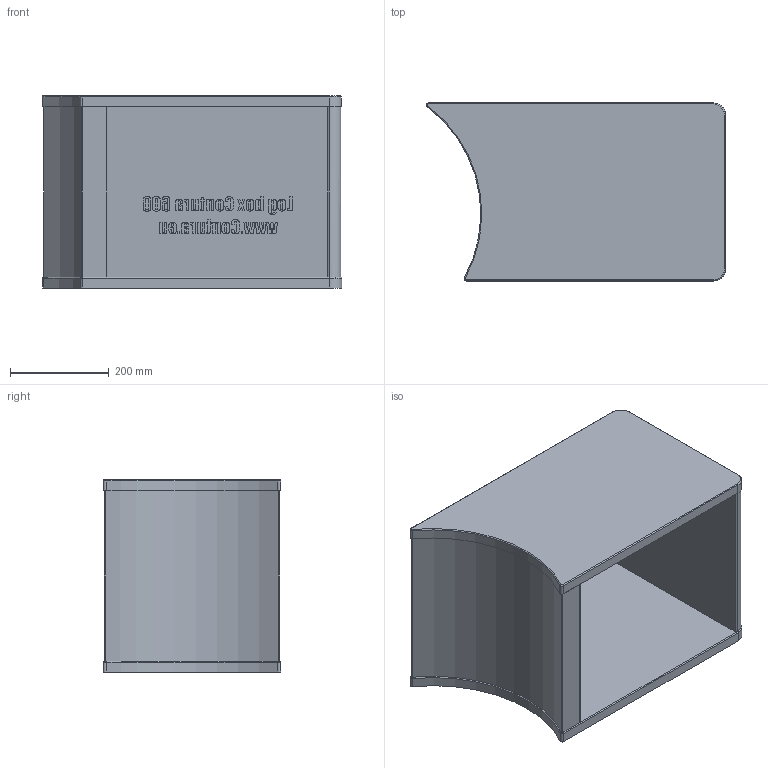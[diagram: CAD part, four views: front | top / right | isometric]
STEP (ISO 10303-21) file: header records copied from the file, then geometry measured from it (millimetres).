
FILE_DESCRIPTION(/* description */ ('Unknown'),/* implementation_level */ '2;1');
FILE_NAME(/* name */ 'C600 Style Log box interior model',/* time_stamp */ '2017-06-28T11:47:15+02:00',/* author */ ('Unknown'),/* organization */ ('NIBE AB/Contura'),/* preprocessor_version */ 'ST-DEVELOPER v16.7',/* originating_system */ 'DEX',/* authorisation */ $);
FILE_SCHEMA (('AUTOMOTIVE_DESIGN {1 0 10303 214 3 1 1}'));
Length unit declared in the file: millimetre
Products named in the file (1): DSN1018774
Bounding box: 607.29 x 359.99 x 389 mm (x, y, z)
Volume: 17192252.8 mm3; surface area: 1666731.4 mm2
Topology: 1 solids, 1 shells, 405 faces, 1021 edges, 672 vertices
Faces by surface type: plane 286, bspline 84, cylinder 25, torus 10
Entity records: 18035 total; most frequent: CARTESIAN_POINT 9623, ORIENTED_EDGE 2042, DIRECTION 1135, EDGE_CURVE 1021, VERTEX_POINT 672, B_SPLINE_CURVE_WITH_KNOTS 592, EDGE_LOOP 463, FACE_BOUND 463
